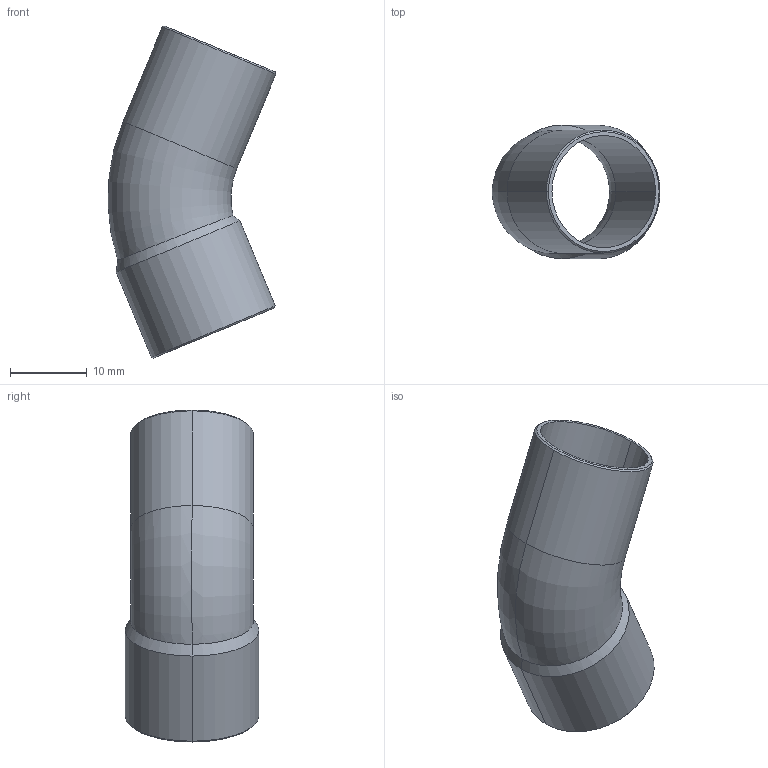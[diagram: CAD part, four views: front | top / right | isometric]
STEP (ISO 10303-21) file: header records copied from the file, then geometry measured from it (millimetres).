
FILE_DESCRIPTION((''),'2;1');
FILE_NAME('P:\Bouwmaten\z-maattekeningen 3D\5000\5040\1504016.stp','2005-10-05T11:06:56',('Kris'),(''),'Autodesk Inventor 8','Autodesk Inventor 8','');
FILE_SCHEMA(('AUTOMOTIVE_DESIGN { 1 0 10303 214 1 1 1 1 }'));
Length unit declared in the file: millimetre
Products named in the file (1): 1504016
Bounding box: 21.85 x 17.4 x 43.19 mm (x, y, z)
Volume: 1362.2 mm3; surface area: 3953 mm2
Topology: 1 solids, 1 shells, 24 faces, 50 edges, 28 vertices
Faces by surface type: cone 10, cylinder 8, torus 4, plane 2
Entity records: 729 total; most frequent: CARTESIAN_POINT 179, DIRECTION 124, ORIENTED_EDGE 100, AXIS2_PLACEMENT_3D 53, EDGE_CURVE 50, VERTEX_POINT 28, CIRCLE 28, EDGE_LOOP 26
